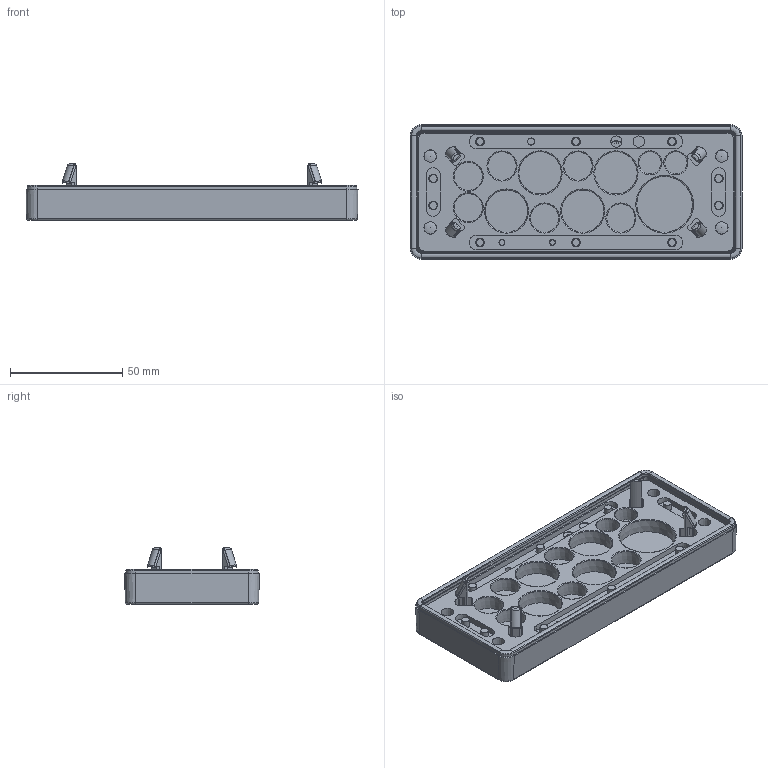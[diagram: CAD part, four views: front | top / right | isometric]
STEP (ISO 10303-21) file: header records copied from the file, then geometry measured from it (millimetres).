
FILE_DESCRIPTION(/* description */ (''),/* implementation_level */ '2;1');
FILE_NAME(/* name */ 'H:\SapWorkDir\Inventor\MP1\ConvertTempPath\87_16_121486_00_A_220620_KDP-X 24-13 ZSB - Blech 1,5-2,0.stp',/* time_stamp */ '2022-06-20T15:59:59+02:00',/* author */ ('BAUER'),/* organization */ (''),/* preprocessor_version */ 'ST-DEVELOPER v16.13',/* originating_system */ 'Autodesk Inventor 2018',/* authorisation */ '');
FILE_SCHEMA (('AUTOMOTIVE_DESIGN { 1 0 10303 214 3 1 1 }'));
Products named in the file (5): 121486; 121382; 105839_MPS_3F1; 105837_MPS_3F1; 104104_MPS_3F1
Assembly tree (4 placements, depth 2):
  121486
    121382
    105839_MPS_3F1
    105837_MPS_3F1
    104104_MPS_3F1
Bounding box: 148 x 60 x 25 mm (x, y, z)
Volume: 72231.8 mm3; surface area: 69718.1 mm2
Topology: 4 solids, 4 shells, 3144 faces, 8112 edges, 4940 vertices
Faces by surface type: plane 1407, bspline 672, cylinder 430, cone 307, torus 215, sphere 113
Full cylindrical faces by diameter (mm): 2.5 x2, 2.6 x2, 3 x1, 3.1 x1, 3.6 x10, 5 x2, 5.5 x8, 6.5 x4, 7.5 x4
Entity records: 104518 total; most frequent: CARTESIAN_POINT 31256, ORIENTED_EDGE 15524, DIRECTION 14246, EDGE_CURVE 7762, VERTEX_POINT 4930, AXIS2_PLACEMENT_3D 4812, LINE 4622, VECTOR 4622
